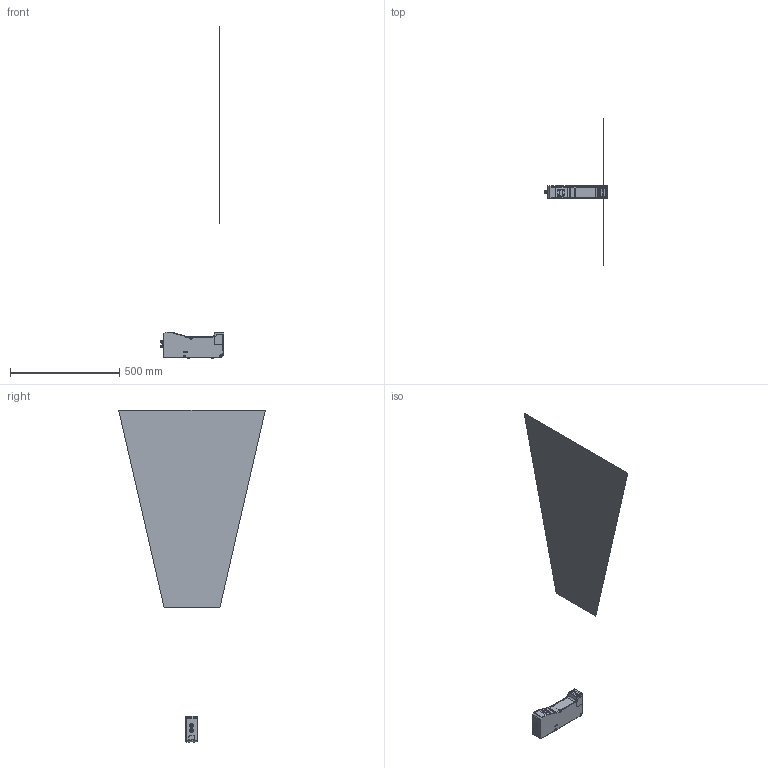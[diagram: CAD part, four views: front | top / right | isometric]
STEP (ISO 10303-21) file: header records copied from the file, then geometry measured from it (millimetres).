
FILE_DESCRIPTION((''),'2;1');
FILE_NAME('29003900-P-SHELL_SW0001','2024-10-23T14:11:52',('liudeting'),(''),'CREO PARAMETRIC BY PTC INC, 2020044','CREO PARAMETRIC BY PTC INC, 2020044','');
FILE_SCHEMA(('CONFIG_CONTROL_DESIGN'));
Length unit declared in the file: millimetre
Products named in the file (1): 29003900-P-SHELL_SW0001
Bounding box: 288.5 x 670 x 1518.5 mm (x, y, z)
Surface area: 529311.3 mm2 (no closed solid volume)
Topology: 0 solids, 43 shells, 863 faces, 2854 edges, 1976 vertices
Faces by surface type: plane 294, cylinder 243, cone 199, torus 86, bspline 41
Entity records: 43183 total; most frequent: CARTESIAN_POINT 18885, DIRECTION 4992, ORIENTED_EDGE 4832, EDGE_CURVE 2834, VERTEX_POINT 1976, AXIS2_PLACEMENT_3D 1856, VECTOR 1280, LINE 1280
